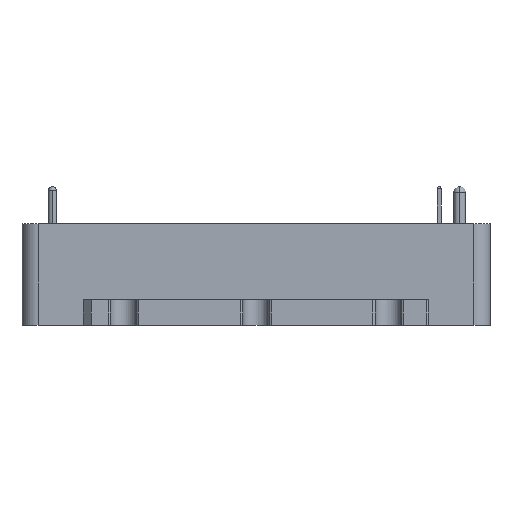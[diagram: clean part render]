
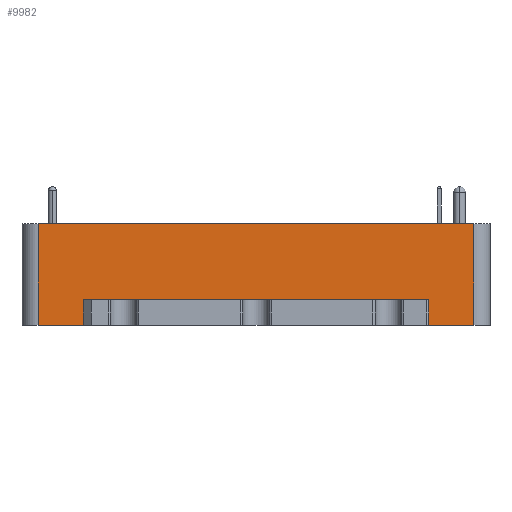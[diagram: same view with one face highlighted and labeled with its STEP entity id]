
A CAD part, front view. The second image highlights one B-rep face of the part: STEP entity #9982.
In plain terms, the highlighted planar face has unit normal (0, -1, 0).
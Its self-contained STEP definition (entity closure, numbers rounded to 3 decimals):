
#135 = VERTEX_POINT ( 'NONE', #14251 ) ;
#328 = CARTESIAN_POINT ( 'NONE',  ( 0., -18.4, -8.2 ) ) ;
#330 = CARTESIAN_POINT ( 'NONE',  ( 21.555, -18.4, -8.2 ) ) ;
#455 = EDGE_CURVE ( 'NONE', #12838, #2982, #8429, .T. ) ;
#697 = ORIENTED_EDGE ( 'NONE', *, *, #1648, .F. ) ;
#1007 = EDGE_CURVE ( 'NONE', #7739, #17250, #7386, .T. ) ;
#1064 = VECTOR ( 'NONE', #13505, 1000. ) ;
#1229 = CARTESIAN_POINT ( 'NONE',  ( 27.2, -18.4, -75.028 ) ) ;
#1239 = VECTOR ( 'NONE', #14225, 1000. ) ;
#1387 = ORIENTED_EDGE ( 'NONE', *, *, #13716, .F. ) ;
#1648 = EDGE_CURVE ( 'NONE', #17567, #135, #6838, .T. ) ;
#2065 = ORIENTED_EDGE ( 'NONE', *, *, #4494, .F. ) ;
#2102 = CARTESIAN_POINT ( 'NONE',  ( -27.2, -18.4, 3.5 ) ) ;
#2183 = CARTESIAN_POINT ( 'NONE',  ( 21.58, -18.4, -9.2 ) ) ;
#2688 = VECTOR ( 'NONE', #14640, 1000. ) ;
#2834 = CARTESIAN_POINT ( 'NONE',  ( -27.2, -18.4, -9.2 ) ) ;
#2982 = VERTEX_POINT ( 'NONE', #2183 ) ;
#3223 = DIRECTION ( 'NONE',  ( 1., 0., 0. ) ) ;
#3520 = DIRECTION ( 'NONE',  ( -1., 0., 0. ) ) ;
#3765 = CARTESIAN_POINT ( 'NONE',  ( -27.2, -18.4, -9.2 ) ) ;
#4494 = EDGE_CURVE ( 'NONE', #12838, #24309, #8687, .T. ) ;
#5379 = EDGE_CURVE ( 'NONE', #8993, #17567, #12817, .T. ) ;
#5744 = VECTOR ( 'NONE', #17412, 1000. ) ;
#5860 = DIRECTION ( 'NONE',  ( 0., 0., 1. ) ) ;
#5973 = AXIS2_PLACEMENT_3D ( 'NONE', #6893, #20060, #3223 ) ;
#6838 = LINE ( 'NONE', #14348, #8815 ) ;
#6893 = CARTESIAN_POINT ( 'NONE',  ( -27.2, -18.4, -75.028 ) ) ;
#7030 = FACE_OUTER_BOUND ( 'NONE', #10438, .T. ) ;
#7246 = CARTESIAN_POINT ( 'NONE',  ( -27.2, -18.4, -9.2 ) ) ;
#7386 = LINE ( 'NONE', #18455, #18372 ) ;
#7739 = VERTEX_POINT ( 'NONE', #2102 ) ;
#7873 = ORIENTED_EDGE ( 'NONE', *, *, #21225, .F. ) ;
#8429 = LINE ( 'NONE', #12138, #1239 ) ;
#8687 = LINE ( 'NONE', #10657, #13017 ) ;
#8815 = VECTOR ( 'NONE', #18273, 1000. ) ;
#8993 = VERTEX_POINT ( 'NONE', #14376 ) ;
#9668 = LINE ( 'NONE', #328, #5744 ) ;
#9670 = VECTOR ( 'NONE', #17719, 1000. ) ;
#9881 = ORIENTED_EDGE ( 'NONE', *, *, #20735, .F. ) ;
#9982 = ADVANCED_FACE ( 'NONE', ( #7030 ), #21902, .T. ) ;
#10178 = ORIENTED_EDGE ( 'NONE', *, *, #1007, .F. ) ;
#10438 = EDGE_LOOP ( 'NONE', ( #20356, #7873, #697, #21286, #1387, #2065, #21605, #9881, #16286, #10178 ) ) ;
#10657 = CARTESIAN_POINT ( 'NONE',  ( 0., -18.4, -8.2 ) ) ;
#11254 = VECTOR ( 'NONE', #5860, 1000. ) ;
#12104 = LINE ( 'NONE', #3765, #1064 ) ;
#12138 = CARTESIAN_POINT ( 'NONE',  ( 21.58, -18.4, -8.2 ) ) ;
#12681 = LINE ( 'NONE', #1229, #2688 ) ;
#12760 = EDGE_CURVE ( 'NONE', #18258, #17250, #12681, .T. ) ;
#12817 = LINE ( 'NONE', #18460, #15829 ) ;
#12838 = VERTEX_POINT ( 'NONE', #15113 ) ;
#13017 = VECTOR ( 'NONE', #3520, 1000. ) ;
#13505 = DIRECTION ( 'NONE',  ( -1., 0., 0. ) ) ;
#13716 = EDGE_CURVE ( 'NONE', #24309, #8993, #9668, .T. ) ;
#14225 = DIRECTION ( 'NONE',  ( 0., 0., -1. ) ) ;
#14251 = CARTESIAN_POINT ( 'NONE',  ( -21.58, -18.4, -9.2 ) ) ;
#14348 = CARTESIAN_POINT ( 'NONE',  ( -21.58, -18.4, -8.2 ) ) ;
#14376 = CARTESIAN_POINT ( 'NONE',  ( -21.555, -18.4, -8.2 ) ) ;
#14640 = DIRECTION ( 'NONE',  ( 0., 0., 1. ) ) ;
#14780 = EDGE_CURVE ( 'NONE', #20048, #7739, #18885, .T. ) ;
#14893 = DIRECTION ( 'NONE',  ( 1., 0., 0. ) ) ;
#15113 = CARTESIAN_POINT ( 'NONE',  ( 21.58, -18.4, -8.2 ) ) ;
#15829 = VECTOR ( 'NONE', #20301, 1000. ) ;
#15890 = CARTESIAN_POINT ( 'NONE',  ( 27.2, -18.4, 3.5 ) ) ;
#15999 = LINE ( 'NONE', #2834, #9670 ) ;
#16286 = ORIENTED_EDGE ( 'NONE', *, *, #12760, .T. ) ;
#17250 = VERTEX_POINT ( 'NONE', #15890 ) ;
#17412 = DIRECTION ( 'NONE',  ( -1., 0., 0. ) ) ;
#17567 = VERTEX_POINT ( 'NONE', #19183 ) ;
#17626 = CARTESIAN_POINT ( 'NONE',  ( 27.2, -18.4, -9.2 ) ) ;
#17719 = DIRECTION ( 'NONE',  ( -1., 0., 0. ) ) ;
#18258 = VERTEX_POINT ( 'NONE', #17626 ) ;
#18273 = DIRECTION ( 'NONE',  ( 0., 0., -1. ) ) ;
#18372 = VECTOR ( 'NONE', #14893, 1000. ) ;
#18455 = CARTESIAN_POINT ( 'NONE',  ( -27.2, -18.4, 3.5 ) ) ;
#18460 = CARTESIAN_POINT ( 'NONE',  ( 0., -18.4, -8.2 ) ) ;
#18885 = LINE ( 'NONE', #22707, #11254 ) ;
#19183 = CARTESIAN_POINT ( 'NONE',  ( -21.58, -18.4, -8.2 ) ) ;
#20048 = VERTEX_POINT ( 'NONE', #7246 ) ;
#20060 = DIRECTION ( 'NONE',  ( 0., -1., 0. ) ) ;
#20301 = DIRECTION ( 'NONE',  ( -1., 0., 0. ) ) ;
#20356 = ORIENTED_EDGE ( 'NONE', *, *, #14780, .F. ) ;
#20735 = EDGE_CURVE ( 'NONE', #18258, #2982, #12104, .T. ) ;
#21225 = EDGE_CURVE ( 'NONE', #135, #20048, #15999, .T. ) ;
#21286 = ORIENTED_EDGE ( 'NONE', *, *, #5379, .F. ) ;
#21605 = ORIENTED_EDGE ( 'NONE', *, *, #455, .T. ) ;
#21902 = PLANE ( 'NONE',  #5973 ) ;
#22707 = CARTESIAN_POINT ( 'NONE',  ( -27.2, -18.4, -75.028 ) ) ;
#24309 = VERTEX_POINT ( 'NONE', #330 ) ;
